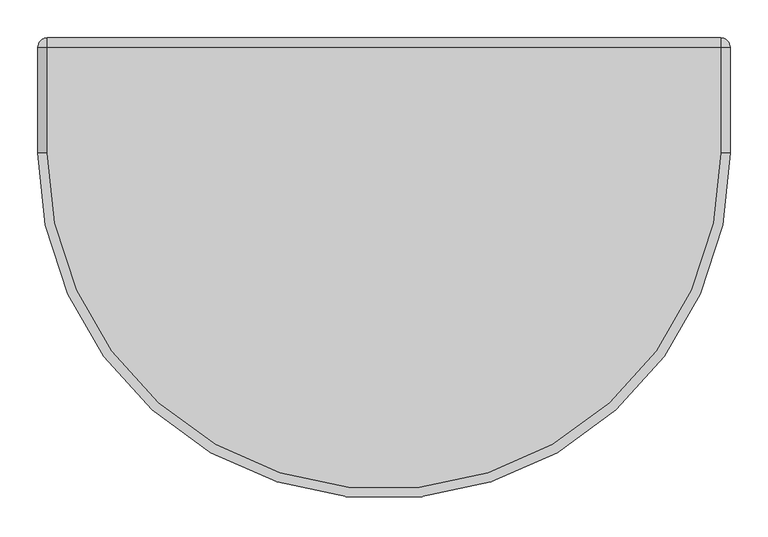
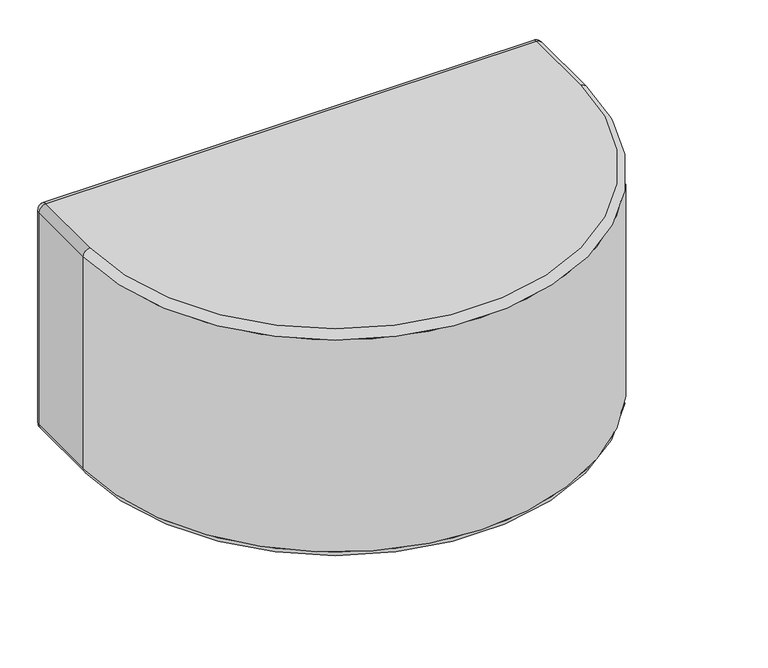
"""IFC4 building model written with IfcOpenShell, lengths in millimetres: furniture geometry, KFI Studios - Conversa - Half Round Seat : KFI Studios - Conversa - Half Round Seat."""

from ifc_helpers import new_model, si_unit, point, frame, origin, place, context, project, spatial, polyline, circle_curve, ellipse_curve, trimmed, source, transform, mapped, element, save
from ifc_brep_helpers import plane_surface, cylinder_surface, revolved_surface, advanced_brep


def furniture_8747c72a(model_context):
    return source(origin(), model_context, "Body", "AdvancedBrep", [
        advanced_brep(
        [(8.2645895, -212.725, 25.4), (-8.2645895, -212.725, 25.4), (0.0, -212.725, 25.4), (8.2645895, -212.725, 14.2843611), (-8.2645895, -212.725, 14.2843611), (6.6626354, -212.725, 14.2843611), (-6.6626354, -212.725, 14.2843611), (6.6626354, -212.725, 12.7064551), (-6.6626354, -212.725, 12.7064551), (8.2640671, -212.725, 12.7064551), (-8.2640671, -212.725, 12.7064551), (17.4491215, -212.725, 3.1950529), (-17.4491215, -212.725, 3.1950529), (17.4491215, -212.725, 0.0), (-17.4491215, -212.725, 0.0), (0.0, -212.725, 0.0)],
        [
            (0, 1, circle_curve(frame((0.0, -212.725, 25.4), z_axis=(0.0, 0.0, 1.0), x_axis=(-1.0, 0.0, 0.0)), 8.2645895)),
            (1, 2),
            (2, 0),
            (1, 0, circle_curve(frame((0.0, -212.725, 25.4), z_axis=(0.0, 0.0, 1.0), x_axis=(-1.0, 0.0, 0.0)), 8.2645895)),
            (3, 4, circle_curve(frame((0.0, -212.725, 14.2843611), z_axis=(0.0, 0.0, 1.0), x_axis=(-1.0, 0.0, 0.0)), 8.2645895)),
            (4, 1),
            (0, 3),
            (4, 3, circle_curve(frame((0.0, -212.725, 14.2843611), z_axis=(0.0, 0.0, 1.0), x_axis=(-1.0, 0.0, 0.0)), 8.2645895)),
            (5, 6, circle_curve(frame((0.0, -212.725, 14.2843611), z_axis=(0.0, 0.0, 1.0), x_axis=(-1.0, 0.0, 0.0)), 6.6626354)),
            (6, 4),
            (3, 5),
            (6, 5, circle_curve(frame((0.0, -212.725, 14.2843611), z_axis=(0.0, 0.0, 1.0), x_axis=(-1.0, 0.0, 0.0)), 6.6626354)),
            (7, 8, circle_curve(frame((0.0, -212.725, 12.7064551), z_axis=(0.0, 0.0, 1.0), x_axis=(-1.0, 0.0, 0.0)), 6.6626354)),
            (8, 6),
            (5, 7),
            (8, 7, circle_curve(frame((0.0, -212.725, 12.7064551), z_axis=(0.0, 0.0, 1.0), x_axis=(-1.0, 0.0, 0.0)), 6.6626354)),
            (9, 10, circle_curve(frame((0.0, -212.725, 12.7064551), z_axis=(0.0, 0.0, 1.0), x_axis=(-1.0, 0.0, 0.0)), 8.2640671)),
            (10, 8),
            (7, 9),
            (10, 9, circle_curve(frame((0.0, -212.725, 12.7064551), z_axis=(0.0, 0.0, 1.0), x_axis=(-1.0, 0.0, 0.0)), 8.2640671)),
            (11, 12, circle_curve(frame((0.0, -212.725, 3.1950529), z_axis=(0.0, 0.0, 1.0), x_axis=(-1.0, 0.0, 0.0)), 17.4491215)),
            (12, 10),
            (9, 11),
            (12, 11, circle_curve(frame((0.0, -212.725, 3.1950529), z_axis=(0.0, 0.0, 1.0), x_axis=(-1.0, 0.0, 0.0)), 17.4491215)),
            (13, 14, circle_curve(frame((0.0, -212.725, 0.0), z_axis=(0.0, 0.0, 1.0), x_axis=(-1.0, 0.0, 0.0)), 17.4491215)),
            (14, 12),
            (11, 13),
            (14, 13, circle_curve(frame((0.0, -212.725, 0.0), z_axis=(0.0, 0.0, 1.0), x_axis=(-1.0, 0.0, 0.0)), 17.4491215)),
            (15, 14),
            (13, 15),
        ],
        [
            plane_surface(frame((0.0, -212.725, 25.4), z_axis=(0.0, 0.0, 1.0), x_axis=(-1.0, 0.0, 0.0))),
            cylinder_surface(frame((0.0, -212.725, 33.820929), z_axis=(0.0, 0.0, -1.0), x_axis=(-1.0, 0.0, 0.0)), 8.2645895),
            plane_surface(frame((0.0, -212.725, 14.2843611), z_axis=(0.0, 0.0, -1.0), x_axis=(-1.0, 0.0, 0.0))),
            cylinder_surface(frame((0.0, -212.725, 33.820929), z_axis=(0.0, 0.0, -1.0), x_axis=(-1.0, 0.0, 0.0)), 6.6626354),
            plane_surface(frame((0.0, -212.725, 12.7064551), z_axis=(0.0, 0.0, 1.0), x_axis=(-1.0, 0.0, 0.0))),
            revolved_surface(polyline([(-8.2640671, -212.725, 12.7064551), (-17.4491215, -212.725, 3.1950529)]), (0.0, -212.725, 33.820929), (0.0, 0.0, -1.0)),
            cylinder_surface(frame((0.0, -212.725, 33.820929), z_axis=(0.0, 0.0, -1.0), x_axis=(-1.0, 0.0, 0.0)), 17.4491215),
            plane_surface(frame((0.0, -212.725, 0.0), z_axis=(0.0, 0.0, -1.0), x_axis=(-1.0, 0.0, 0.0))),
        ],
        [
            (0, [[1, 2, 3]]),
            (0, [[4, -3, -2]]),
            (1, [[5, 6, -1, 7]]),
            (1, [[8, -7, -4, -6]]),
            (2, [[9, 10, -5, 11]]),
            (2, [[12, -11, -8, -10]]),
            (3, [[13, 14, -9, 15]]),
            (3, [[16, -15, -12, -14]]),
            (4, [[17, 18, -13, 19]]),
            (4, [[20, -19, -16, -18]]),
            (5, [[21, 22, -17, 23]]),
            (5, [[24, -23, -20, -22]]),
            (6, [[25, 26, -21, 27]]),
            (6, [[28, -27, -24, -26]]),
            (7, [[29, -25, 30]]),
            (7, [[-30, -28, -29]]),
        ],
    ),
        advanced_brep(
        [(356.8604105, 212.725, 25.4), (365.125, 212.725, 25.4), (373.3895895, 212.725, 25.4), (356.8604105, 212.725, 14.2843611), (373.3895895, 212.725, 14.2843611), (358.4623646, 212.725, 14.2843611), (371.7876354, 212.725, 14.2843611), (358.4623646, 212.725, 12.7064551), (371.7876354, 212.725, 12.7064551), (356.8609329, 212.725, 12.7064551), (373.3890671, 212.725, 12.7064551), (347.6758785, 212.725, 3.1950529), (382.5741215, 212.725, 3.1950529), (347.6758785, 212.725, 0.0), (382.5741215, 212.725, 0.0), (365.125, 212.725, 0.0)],
        [
            (0, 1),
            (1, 2),
            (2, 0, circle_curve(frame((365.125, 212.725, 25.4), z_axis=(0.0, 0.0, 1.0), x_axis=(1.0, 0.0, 0.0)), 8.2645895)),
            (0, 2, circle_curve(frame((365.125, 212.725, 25.4), z_axis=(0.0, 0.0, 1.0), x_axis=(1.0, 0.0, 0.0)), 8.2645895)),
            (3, 0),
            (2, 4),
            (4, 3, circle_curve(frame((365.125, 212.725, 14.2843611), z_axis=(0.0, 0.0, 1.0), x_axis=(1.0, 0.0, 0.0)), 8.2645895)),
            (3, 4, circle_curve(frame((365.125, 212.725, 14.2843611), z_axis=(0.0, 0.0, 1.0), x_axis=(1.0, 0.0, 0.0)), 8.2645895)),
            (5, 3),
            (4, 6),
            (6, 5, circle_curve(frame((365.125, 212.725, 14.2843611), z_axis=(0.0, 0.0, 1.0), x_axis=(1.0, 0.0, 0.0)), 6.6626354)),
            (5, 6, circle_curve(frame((365.125, 212.725, 14.2843611), z_axis=(0.0, 0.0, 1.0), x_axis=(1.0, 0.0, 0.0)), 6.6626354)),
            (7, 5),
            (6, 8),
            (8, 7, circle_curve(frame((365.125, 212.725, 12.7064551), z_axis=(0.0, 0.0, 1.0), x_axis=(1.0, 0.0, 0.0)), 6.6626354)),
            (7, 8, circle_curve(frame((365.125, 212.725, 12.7064551), z_axis=(0.0, 0.0, 1.0), x_axis=(1.0, 0.0, 0.0)), 6.6626354)),
            (9, 7),
            (8, 10),
            (10, 9, circle_curve(frame((365.125, 212.725, 12.7064551), z_axis=(0.0, 0.0, 1.0), x_axis=(1.0, 0.0, 0.0)), 8.2640671)),
            (9, 10, circle_curve(frame((365.125, 212.725, 12.7064551), z_axis=(0.0, 0.0, 1.0), x_axis=(1.0, 0.0, 0.0)), 8.2640671)),
            (11, 9),
            (10, 12),
            (12, 11, circle_curve(frame((365.125, 212.725, 3.1950529), z_axis=(0.0, 0.0, 1.0), x_axis=(1.0, 0.0, 0.0)), 17.4491215)),
            (11, 12, circle_curve(frame((365.125, 212.725, 3.1950529), z_axis=(0.0, 0.0, 1.0), x_axis=(1.0, 0.0, 0.0)), 17.4491215)),
            (13, 11),
            (12, 14),
            (14, 13, circle_curve(frame((365.125, 212.725, 0.0), z_axis=(0.0, 0.0, 1.0), x_axis=(1.0, 0.0, 0.0)), 17.4491215)),
            (13, 14, circle_curve(frame((365.125, 212.725, 0.0), z_axis=(0.0, 0.0, 1.0), x_axis=(1.0, 0.0, 0.0)), 17.4491215)),
            (15, 13),
            (14, 15),
        ],
        [
            plane_surface(frame((365.125, 212.725, 25.4), z_axis=(0.0, 0.0, 1.0), x_axis=(1.0, 0.0, 0.0))),
            cylinder_surface(frame((365.125, 212.725, 33.820929), z_axis=(0.0, 0.0, -1.0), x_axis=(1.0, 0.0, 0.0)), 8.2645895),
            plane_surface(frame((365.125, 212.725, 14.2843611), z_axis=(0.0, 0.0, -1.0), x_axis=(1.0, 0.0, 0.0))),
            cylinder_surface(frame((365.125, 212.725, 33.820929), z_axis=(0.0, 0.0, -1.0), x_axis=(1.0, 0.0, 0.0)), 6.6626354),
            plane_surface(frame((365.125, 212.725, 12.7064551), z_axis=(0.0, 0.0, 1.0), x_axis=(1.0, 0.0, 0.0))),
            revolved_surface(polyline([(373.3890671, 212.725, 12.7064551), (382.5741215, 212.725, 3.1950529)]), (365.125, 212.725, 33.820929), (0.0, 0.0, -1.0)),
            cylinder_surface(frame((365.125, 212.725, 33.820929), z_axis=(0.0, 0.0, -1.0), x_axis=(1.0, 0.0, 0.0)), 17.4491215),
            plane_surface(frame((365.125, 212.725, 0.0), z_axis=(0.0, 0.0, -1.0), x_axis=(1.0, 0.0, 0.0))),
        ],
        [
            (0, [[1, 2, 3]]),
            (0, [[-2, -1, 4]]),
            (1, [[5, -3, 6, 7]]),
            (1, [[-6, -4, -5, 8]]),
            (2, [[9, -7, 10, 11]]),
            (2, [[-10, -8, -9, 12]]),
            (3, [[13, -11, 14, 15]]),
            (3, [[-14, -12, -13, 16]]),
            (4, [[17, -15, 18, 19]]),
            (4, [[-18, -16, -17, 20]]),
            (5, [[21, -19, 22, 23]]),
            (5, [[-22, -20, -21, 24]]),
            (6, [[25, -23, 26, 27]]),
            (6, [[-26, -24, -25, 28]]),
            (7, [[29, -27, 30]]),
            (7, [[-30, -28, -29]]),
        ],
    ),
        advanced_brep(
        [(-356.8604105, 212.725, 25.4), (-373.3895895, 212.725, 25.4), (-365.125, 212.725, 25.4), (-356.8604105, 212.725, 14.2843611), (-373.3895895, 212.725, 14.2843611), (-358.4623646, 212.725, 14.2843611), (-371.7876354, 212.725, 14.2843611), (-358.4623646, 212.725, 12.7064551), (-371.7876354, 212.725, 12.7064551), (-356.8609329, 212.725, 12.7064551), (-373.3890671, 212.725, 12.7064551), (-347.6758785, 212.725, 3.1950529), (-382.5741215, 212.725, 3.1950529), (-347.6758785, 212.725, 0.0), (-382.5741215, 212.725, 0.0), (-365.125, 212.725, 0.0)],
        [
            (0, 1, circle_curve(frame((-365.125, 212.725, 25.4), z_axis=(0.0, 0.0, 1.0), x_axis=(-1.0, 0.0, 0.0)), 8.2645895)),
            (1, 2),
            (2, 0),
            (1, 0, circle_curve(frame((-365.125, 212.725, 25.4), z_axis=(0.0, 0.0, 1.0), x_axis=(-1.0, 0.0, 0.0)), 8.2645895)),
            (3, 4, circle_curve(frame((-365.125, 212.725, 14.2843611), z_axis=(0.0, 0.0, 1.0), x_axis=(-1.0, 0.0, 0.0)), 8.2645895)),
            (4, 1),
            (0, 3),
            (4, 3, circle_curve(frame((-365.125, 212.725, 14.2843611), z_axis=(0.0, 0.0, 1.0), x_axis=(-1.0, 0.0, 0.0)), 8.2645895)),
            (5, 6, circle_curve(frame((-365.125, 212.725, 14.2843611), z_axis=(0.0, 0.0, 1.0), x_axis=(-1.0, 0.0, 0.0)), 6.6626354)),
            (6, 4),
            (3, 5),
            (6, 5, circle_curve(frame((-365.125, 212.725, 14.2843611), z_axis=(0.0, 0.0, 1.0), x_axis=(-1.0, 0.0, 0.0)), 6.6626354)),
            (7, 8, circle_curve(frame((-365.125, 212.725, 12.7064551), z_axis=(0.0, 0.0, 1.0), x_axis=(-1.0, 0.0, 0.0)), 6.6626354)),
            (8, 6),
            (5, 7),
            (8, 7, circle_curve(frame((-365.125, 212.725, 12.7064551), z_axis=(0.0, 0.0, 1.0), x_axis=(-1.0, 0.0, 0.0)), 6.6626354)),
            (9, 10, circle_curve(frame((-365.125, 212.725, 12.7064551), z_axis=(0.0, 0.0, 1.0), x_axis=(-1.0, 0.0, 0.0)), 8.2640671)),
            (10, 8),
            (7, 9),
            (10, 9, circle_curve(frame((-365.125, 212.725, 12.7064551), z_axis=(0.0, 0.0, 1.0), x_axis=(-1.0, 0.0, 0.0)), 8.2640671)),
            (11, 12, circle_curve(frame((-365.125, 212.725, 3.1950529), z_axis=(0.0, 0.0, 1.0), x_axis=(-1.0, 0.0, 0.0)), 17.4491215)),
            (12, 10),
            (9, 11),
            (12, 11, circle_curve(frame((-365.125, 212.725, 3.1950529), z_axis=(0.0, 0.0, 1.0), x_axis=(-1.0, 0.0, 0.0)), 17.4491215)),
            (13, 14, circle_curve(frame((-365.125, 212.725, 0.0), z_axis=(0.0, 0.0, 1.0), x_axis=(-1.0, 0.0, 0.0)), 17.4491215)),
            (14, 12),
            (11, 13),
            (14, 13, circle_curve(frame((-365.125, 212.725, 0.0), z_axis=(0.0, 0.0, 1.0), x_axis=(-1.0, 0.0, 0.0)), 17.4491215)),
            (15, 14),
            (13, 15),
        ],
        [
            plane_surface(frame((-365.125, 212.725, 25.4), z_axis=(0.0, 0.0, 1.0), x_axis=(-1.0, 0.0, 0.0))),
            cylinder_surface(frame((-365.125, 212.725, 33.820929), z_axis=(0.0, 0.0, -1.0), x_axis=(-1.0, 0.0, 0.0)), 8.2645895),
            plane_surface(frame((-365.125, 212.725, 14.2843611), z_axis=(0.0, 0.0, -1.0), x_axis=(-1.0, 0.0, 0.0))),
            cylinder_surface(frame((-365.125, 212.725, 33.820929), z_axis=(0.0, 0.0, -1.0), x_axis=(-1.0, 0.0, 0.0)), 6.6626354),
            plane_surface(frame((-365.125, 212.725, 12.7064551), z_axis=(0.0, 0.0, 1.0), x_axis=(-1.0, 0.0, 0.0))),
            revolved_surface(polyline([(-373.3890671, 212.725, 12.7064551), (-382.5741215, 212.725, 3.1950529)]), (-365.125, 212.725, 33.820929), (0.0, 0.0, -1.0)),
            cylinder_surface(frame((-365.125, 212.725, 33.820929), z_axis=(0.0, 0.0, -1.0), x_axis=(-1.0, 0.0, 0.0)), 17.4491215),
            plane_surface(frame((-365.125, 212.725, 0.0), z_axis=(0.0, 0.0, -1.0), x_axis=(-1.0, 0.0, 0.0))),
        ],
        [
            (0, [[1, 2, 3]]),
            (0, [[4, -3, -2]]),
            (1, [[5, 6, -1, 7]]),
            (1, [[8, -7, -4, -6]]),
            (2, [[9, 10, -5, 11]]),
            (2, [[12, -11, -8, -10]]),
            (3, [[13, 14, -9, 15]]),
            (3, [[16, -15, -12, -14]]),
            (4, [[17, 18, -13, 19]]),
            (4, [[20, -19, -16, -18]]),
            (5, [[21, 22, -17, 23]]),
            (5, [[24, -23, -20, -22]]),
            (6, [[25, 26, -21, 27]]),
            (6, [[28, -27, -24, -26]]),
            (7, [[29, -25, 30]]),
            (7, [[-30, -28, -29]]),
        ],
    ),
        advanced_brep(
        [(-444.5, 292.1, 457.2), (444.5, 292.1, 457.2), (444.5, 304.8, 444.5), (-444.5, 304.8, 444.5), (-444.5, 304.8, 38.1), (444.5, 304.8, 38.1), (444.5, 292.1, 25.4), (-444.5, 292.1, 25.4), (457.2, 292.1, 38.1), (457.2, 292.1, 444.5), (-457.2, 292.1, 38.1), (-457.2, 292.1, 444.5), (444.5, 152.4, 25.4), (-444.5, 152.4, 25.4), (-444.5, 152.4, 457.2), (444.5, 152.4, 457.2), (-457.2, 152.4, 444.5), (457.2, 152.4, 444.5), (-457.2, 152.4, 38.1), (457.2, 152.4, 38.1)],
        [
            (0, 1),
            (1, 2, circle_curve(frame((444.5, 292.1, 444.5), z_axis=(-1.0, 0.0, 0.0), x_axis=(0.0, 1.0, 0.0)), 12.7)),
            (2, 3),
            (3, 0, circle_curve(frame((-444.5, 292.1, 444.5), z_axis=(1.0, 0.0, 0.0), x_axis=(0.0, 1.0, 0.0)), 12.7)),
            (4, 5),
            (5, 6, circle_curve(frame((444.5, 292.1, 38.1), z_axis=(-1.0, 0.0, 0.0), x_axis=(0.0, 1.0, 0.0)), 12.7)),
            (6, 7),
            (7, 4, circle_curve(frame((-444.5, 292.1, 38.1), z_axis=(1.0, 0.0, 0.0), x_axis=(0.0, 1.0, 0.0)), 12.7)),
            (2, 5),
            (4, 3),
            (5, 8, circle_curve(frame((444.5, 292.1, 38.1), z_axis=(0.0, 0.0, -1.0), x_axis=(0.0, 1.0, 0.0)), 12.7)),
            (8, 6, circle_curve(frame((444.5, 292.1, 38.1), z_axis=(0.0, 1.0, 0.0), x_axis=(1.0, 0.0, 0.0)), 12.7)),
            (9, 2, circle_curve(frame((444.5, 292.1, 444.5), z_axis=(0.0, 0.0, 1.0), x_axis=(0.0, 1.0, 0.0)), 12.7)),
            (1, 9, circle_curve(frame((444.5, 292.1, 444.5), z_axis=(0.0, 1.0, 0.0), x_axis=(1.0, 0.0, 0.0)), 12.7)),
            (9, 8),
            (10, 4, circle_curve(frame((-444.5, 292.1, 38.1), z_axis=(0.0, 0.0, -1.0), x_axis=(0.0, 1.0, 0.0)), 12.7)),
            (7, 10, circle_curve(frame((-444.5, 292.1, 38.1), z_axis=(0.0, 1.0, 0.0), x_axis=(-1.0, 0.0, 0.0)), 12.7)),
            (3, 11, circle_curve(frame((-444.5, 292.1, 444.5), z_axis=(0.0, 0.0, 1.0), x_axis=(0.0, 1.0, 0.0)), 12.7)),
            (11, 0, circle_curve(frame((-444.5, 292.1, 444.5), z_axis=(0.0, 1.0, 0.0), x_axis=(-1.0, 0.0, 0.0)), 12.7)),
            (10, 11),
            (6, 12),
            (12, 13, circle_curve(frame((0.0, 152.4, 25.4), z_axis=(0.0, 0.0, -1.0), x_axis=(1.0, 0.0, 0.0)), 444.5)),
            (13, 7),
            (0, 14),
            (14, 15, circle_curve(frame((0.0, 152.4, 457.2), z_axis=(0.0, 0.0, 1.0), x_axis=(1.0, 0.0, 0.0)), 444.5)),
            (15, 1),
            (14, 16, circle_curve(frame((-444.5, 152.4, 444.5), z_axis=(0.0, -1.0, 0.0), x_axis=(1.0, 0.0, 0.0)), 12.7)),
            (16, 17, circle_curve(frame((0.0, 152.4, 444.5), z_axis=(0.0, 0.0, 1.0), x_axis=(1.0, 0.0, 0.0)), 457.2)),
            (17, 15, circle_curve(frame((444.5, 152.4, 444.5), z_axis=(0.0, -1.0, 0.0), x_axis=(-1.0, 0.0, 0.0)), 12.7)),
            (16, 18),
            (18, 19, circle_curve(frame((0.0, 152.4, 38.1), z_axis=(0.0, 0.0, 1.0), x_axis=(1.0, 0.0, 0.0)), 457.2)),
            (19, 17),
            (18, 13, circle_curve(frame((-444.5, 152.4, 38.1), z_axis=(0.0, -1.0, 0.0), x_axis=(1.0, 0.0, 0.0)), 12.7)),
            (12, 19, circle_curve(frame((444.5, 152.4, 38.1), z_axis=(0.0, -1.0, 0.0), x_axis=(-1.0, 0.0, 0.0)), 12.7)),
            (11, 16),
            (18, 10),
            (9, 17),
            (19, 8),
        ],
        [
            cylinder_surface(frame((444.5, 292.1, 444.5), z_axis=(-1.0, 0.0, 0.0), x_axis=(0.0, 1.0, 0.0)), 12.7),
            cylinder_surface(frame((444.5, 292.1, 38.1), z_axis=(-1.0, 0.0, 0.0), x_axis=(0.0, 1.0, 0.0)), 12.7),
            plane_surface(frame((-444.5, 304.8, 444.5), z_axis=(0.0, 1.0, 0.0), x_axis=(1.0, 0.0, 0.0))),
            revolved_surface(trimmed(ellipse_curve(frame((444.5, 292.1, 38.1), z_axis=(-1.0, 0.0, 0.0), x_axis=(0.0, 1.0, 0.0)), 12.7, 12.7), [point((444.5, 304.8, 38.1))], [point((444.5, 292.1, 25.4))], True, "CARTESIAN"), (444.5, 292.1, 457.2), (0.0, 0.0, -1.0)),
            revolved_surface(trimmed(ellipse_curve(frame((444.5, 292.1, 444.5), z_axis=(-1.0, 0.0, 0.0), x_axis=(0.0, 1.0, 0.0)), 12.7, 12.7), [point((444.5, 292.1, 457.2))], [point((444.5, 304.8, 444.5))], True, "CARTESIAN"), (444.5, 292.1, 457.2), (0.0, 0.0, -1.0)),
            cylinder_surface(frame((444.5, 292.1, 457.2), z_axis=(0.0, 0.0, -1.0), x_axis=(0.0, 1.0, 0.0)), 12.7),
            revolved_surface(trimmed(ellipse_curve(frame((-444.5, 292.1, 38.1), z_axis=(1.0, 0.0, 0.0), x_axis=(0.0, 1.0, 0.0)), 12.7, 12.7), [point((-444.5, 292.1, 25.4))], [point((-444.5, 304.8, 38.1))], True, "CARTESIAN"), (-444.5, 292.1, 457.2), (0.0, 0.0, 1.0)),
            revolved_surface(trimmed(ellipse_curve(frame((-444.5, 292.1, 444.5), z_axis=(1.0, 0.0, 0.0), x_axis=(0.0, 1.0, 0.0)), 12.7, 12.7), [point((-444.5, 304.8, 444.5))], [point((-444.5, 292.1, 457.2))], True, "CARTESIAN"), (-444.5, 292.1, 457.2), (0.0, 0.0, 1.0)),
            cylinder_surface(frame((-444.5, 292.1, 457.2), z_axis=(0.0, 0.0, 1.0), x_axis=(0.0, 1.0, 0.0)), 12.7),
            plane_surface(frame((-444.5, 292.1, 25.4), z_axis=(0.0, 0.0, -1.0), x_axis=(1.0, 0.0, 0.0))),
            plane_surface(frame((-444.5, 152.4, 457.2), z_axis=(0.0, 0.0, 1.0), x_axis=(1.0, 0.0, 0.0))),
            revolved_surface(trimmed(ellipse_curve(frame((444.5, 152.4, 444.5), z_axis=(0.0, 1.0, 0.0), x_axis=(-1.0, 0.0, 0.0)), 12.7, 12.7), [point((444.5, 152.4, 457.2))], [point((457.2, 152.4, 444.5))], True, "CARTESIAN"), (0.0, 152.4, 457.2), (0.0, 0.0, -1.0)),
            cylinder_surface(frame((0.0, 152.4, 457.2), z_axis=(0.0, 0.0, -1.0), x_axis=(1.0, 0.0, 0.0)), 457.2),
            revolved_surface(trimmed(ellipse_curve(frame((444.5, 152.4, 38.1), z_axis=(0.0, 1.0, 0.0), x_axis=(-1.0, 0.0, 0.0)), 12.7, 12.7), [point((457.2, 152.4, 38.1))], [point((444.5, 152.4, 25.4))], True, "CARTESIAN"), (0.0, 152.4, 457.2), (0.0, 0.0, -1.0)),
            cylinder_surface(frame((-444.5, 152.4, 444.5), z_axis=(0.0, 1.0, 0.0), x_axis=(1.0, 0.0, 0.0)), 12.7),
            cylinder_surface(frame((-444.5, 152.4, 38.1), z_axis=(0.0, 1.0, 0.0), x_axis=(1.0, 0.0, 0.0)), 12.7),
            plane_surface(frame((-457.2, 292.1, 38.1), z_axis=(-1.0, 0.0, 0.0), x_axis=(0.0, -1.0, 0.0))),
            plane_surface(frame((457.2, 292.1, 444.5), z_axis=(1.0, 0.0, 0.0), x_axis=(0.0, -1.0, 0.0))),
            cylinder_surface(frame((444.5, 152.4, 38.1), z_axis=(0.0, 1.0, 0.0), x_axis=(-1.0, 0.0, 0.0)), 12.7),
            cylinder_surface(frame((444.5, 152.4, 444.5), z_axis=(0.0, 1.0, 0.0), x_axis=(-1.0, 0.0, 0.0)), 12.7),
        ],
        [
            (0, [[1, 2, 3, 4]]),
            (1, [[5, 6, 7, 8]]),
            (2, [[-3, 9, -5, 10]]),
            (3, [[11, 12, -6]]),
            (4, [[13, -2, 14]]),
            (5, [[-11, -9, -13, 15]]),
            (6, [[16, -8, 17]]),
            (7, [[18, 19, -4]]),
            (8, [[-16, 20, -18, -10]]),
            (9, [[-7, 21, 22, 23]]),
            (10, [[-1, 24, 25, 26]]),
            (11, [[-25, 27, 28, 29]]),
            (12, [[-28, 30, 31, 32]]),
            (13, [[-31, 33, -22, 34]]),
            (14, [[35, -27, -24, -19]]),
            (15, [[36, -17, -23, -33]]),
            (16, [[-35, -20, -36, -30]]),
            (17, [[37, -32, 38, -15]]),
            (18, [[-38, -34, -21, -12]]),
            (19, [[-37, -14, -26, -29]]),
        ],
    ),
    ])


if __name__ == "__main__":
    model = new_model("IFC4")
    model_context = context("Model", 3, world=origin())
    ifc_project = project(units=[si_unit("LENGTHUNIT", "METRE", prefix="MILLI")], contexts=[model_context])
    site = spatial("IfcSite", under=ifc_project)
    building = spatial("IfcBuilding", under=site)
    placement = place(None, origin())
    furniture_shape = furniture_8747c72a(model_context)
    element("IfcFurniture", 1, ObjectType="KFI Studios - Conversa - Half Round Seat : KFI Studios - Conversa - Half Round Seat", at=placement, inside=building, context=model_context, shape_type="MappedRepresentation", body=[
        mapped(furniture_shape, transform((0.0, 0.0, 0.0), x_axis=(1.0, 0.0, 0.0), y_axis=(0.0, 1.0, 0.0), z_axis=(0.0, 0.0, 1.0))),
    ])
    save(model, "model.ifc")
